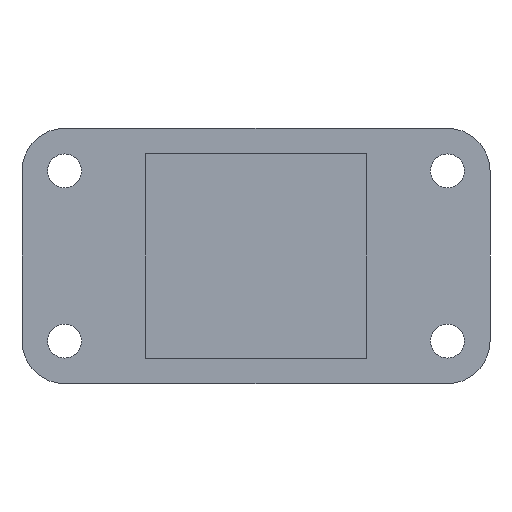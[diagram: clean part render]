
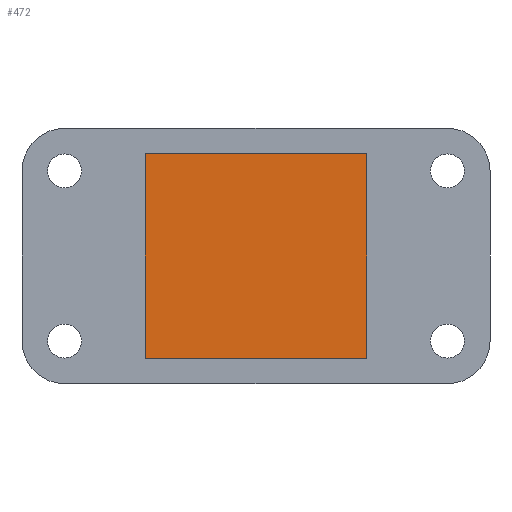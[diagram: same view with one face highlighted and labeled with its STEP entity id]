
A CAD part, front view. The second image highlights one B-rep face of the part: STEP entity #472.
In plain terms, the highlighted planar face has unit normal (0, -1, 0).
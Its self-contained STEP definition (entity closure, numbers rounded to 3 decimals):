
#25 = DIRECTION ( 'NONE',  ( 0., 0., 1. ) ) ;
#40 = AXIS2_PLACEMENT_3D ( 'NONE', #438, #1039, #386 ) ;
#44 = LINE ( 'NONE', #621, #966 ) ;
#57 = VERTEX_POINT ( 'NONE', #222 ) ;
#134 = ORIENTED_EDGE ( 'NONE', *, *, #609, .F. ) ;
#147 = CARTESIAN_POINT ( 'NONE',  ( 26., 30., -24. ) ) ;
#150 = LINE ( 'NONE', #486, #494 ) ;
#189 = DIRECTION ( 'NONE',  ( 1., 0., 0. ) ) ;
#216 = DIRECTION ( 'NONE',  ( 1., 0., 0. ) ) ;
#220 = EDGE_CURVE ( 'NONE', #57, #982, #44, .T. ) ;
#222 = CARTESIAN_POINT ( 'NONE',  ( -26., 30., -24. ) ) ;
#265 = FACE_OUTER_BOUND ( 'NONE', #901, .T. ) ;
#304 = VERTEX_POINT ( 'NONE', #147 ) ;
#344 = LINE ( 'NONE', #1367, #1241 ) ;
#386 = DIRECTION ( 'NONE',  ( 0., 0., 1. ) ) ;
#438 = CARTESIAN_POINT ( 'NONE',  ( 0., 30., 0. ) ) ;
#460 = ORIENTED_EDGE ( 'NONE', *, *, #220, .F. ) ;
#472 = ADVANCED_FACE ( 'NONE', ( #265 ), #743, .F. ) ;
#486 = CARTESIAN_POINT ( 'NONE',  ( 26., 30., -24. ) ) ;
#494 = VECTOR ( 'NONE', #25, 1000. ) ;
#554 = EDGE_CURVE ( 'NONE', #304, #1293, #150, .T. ) ;
#609 = EDGE_CURVE ( 'NONE', #982, #1293, #1340, .T. ) ;
#621 = CARTESIAN_POINT ( 'NONE',  ( -26., 30., -24. ) ) ;
#632 = CARTESIAN_POINT ( 'NONE',  ( 26., 30., 24. ) ) ;
#638 = CARTESIAN_POINT ( 'NONE',  ( -26., 30., 24. ) ) ;
#743 = PLANE ( 'NONE',  #40 ) ;
#836 = EDGE_CURVE ( 'NONE', #57, #304, #344, .T. ) ;
#901 = EDGE_LOOP ( 'NONE', ( #460, #1344, #1042, #134 ) ) ;
#966 = VECTOR ( 'NONE', #1210, 1000. ) ;
#982 = VERTEX_POINT ( 'NONE', #1504 ) ;
#1039 = DIRECTION ( 'NONE',  ( 0., 1., 0. ) ) ;
#1042 = ORIENTED_EDGE ( 'NONE', *, *, #554, .T. ) ;
#1210 = DIRECTION ( 'NONE',  ( 0., 0., 1. ) ) ;
#1241 = VECTOR ( 'NONE', #216, 1000. ) ;
#1249 = VECTOR ( 'NONE', #189, 1000. ) ;
#1293 = VERTEX_POINT ( 'NONE', #632 ) ;
#1340 = LINE ( 'NONE', #638, #1249 ) ;
#1344 = ORIENTED_EDGE ( 'NONE', *, *, #836, .T. ) ;
#1367 = CARTESIAN_POINT ( 'NONE',  ( -26., 30., -24. ) ) ;
#1504 = CARTESIAN_POINT ( 'NONE',  ( -26., 30., 24. ) ) ;
